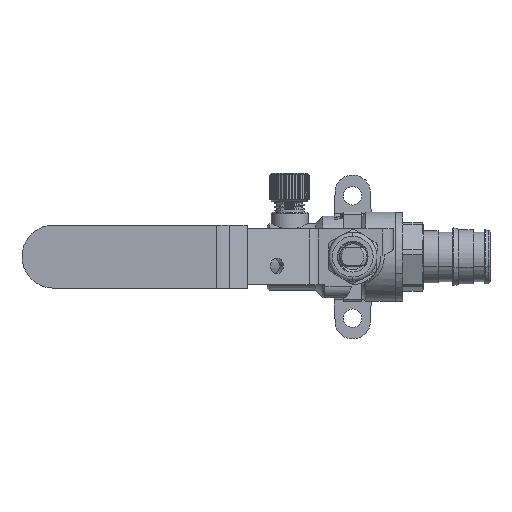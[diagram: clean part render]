
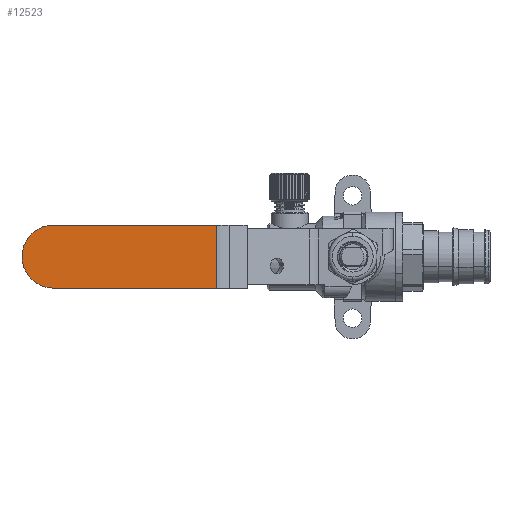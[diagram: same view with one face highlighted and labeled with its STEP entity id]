
A CAD part, top view. The second image highlights one B-rep face of the part: STEP entity #12523.
In plain terms, the highlighted planar face has unit normal (0, 0, 1).
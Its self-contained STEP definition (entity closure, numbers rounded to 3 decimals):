
#12007 = PLANE('',#12008);
#12008 = AXIS2_PLACEMENT_3D('',#12009,#12010,#12011);
#12009 = CARTESIAN_POINT('',(-36.668,-1.97,
    33.667));
#12010 = DIRECTION('',(0.,1.,0.));
#12011 = DIRECTION('',(0.,0.,-1.));
#12036 = CYLINDRICAL_SURFACE('',#12037,8.5);
#12037 = AXIS2_PLACEMENT_3D('',#12038,#12039,#12040);
#12038 = CARTESIAN_POINT('',(-80.604,6.53,
    37.067));
#12039 = DIRECTION('',(0.,0.,-1.));
#12040 = DIRECTION('',(1.,0.,0.));
#12065 = CYLINDRICAL_SURFACE('',#12066,8.5);
#12066 = AXIS2_PLACEMENT_3D('',#12067,#12068,#12069);
#12067 = CARTESIAN_POINT('',(-80.604,6.53,
    33.667));
#12068 = DIRECTION('',(0.,0.,1.));
#12069 = DIRECTION('',(-1.,0.,0.));
#12093 = PLANE('',#12094);
#12094 = AXIS2_PLACEMENT_3D('',#12095,#12096,#12097);
#12095 = CARTESIAN_POINT('',(-36.668,15.03,
    33.667));
#12096 = DIRECTION('',(0.,1.,0.));
#12097 = DIRECTION('',(0.,0.,-1.));
#12413 = CYLINDRICAL_SURFACE('',#12414,6.6);
#12414 = AXIS2_PLACEMENT_3D('',#12415,#12416,#12417);
#12415 = CARTESIAN_POINT('',(-36.668,-1.97,
    33.667));
#12416 = DIRECTION('',(0.,1.,0.));
#12417 = DIRECTION('',(0.,0.,-1.));
#12451 = VERTEX_POINT('',#12452);
#12452 = CARTESIAN_POINT('',(-36.668,15.03,
    40.267));
#12474 = EDGE_CURVE('',#12475,#12451,#12477,.T.);
#12475 = VERTEX_POINT('',#12476);
#12476 = CARTESIAN_POINT('',(-36.668,-1.97,
    40.267));
#12477 = SURFACE_CURVE('',#12478,(#12482,#12489),.PCURVE_S1.);
#12478 = LINE('',#12479,#12480);
#12479 = CARTESIAN_POINT('',(-36.668,-1.97,
    40.267));
#12480 = VECTOR('',#12481,1.);
#12481 = DIRECTION('',(0.,1.,0.));
#12482 = PCURVE('',#12413,#12483);
#12483 = DEFINITIONAL_REPRESENTATION('',(#12484),#12488);
#12484 = LINE('',#12485,#12486);
#12485 = CARTESIAN_POINT('',(3.142,0.));
#12486 = VECTOR('',#12487,1.);
#12487 = DIRECTION('',(0.,1.));
#12488 = ( GEOMETRIC_REPRESENTATION_CONTEXT(2) 
PARAMETRIC_REPRESENTATION_CONTEXT() REPRESENTATION_CONTEXT('2D SPACE',''
  ) );
#12489 = PCURVE('',#12490,#12495);
#12490 = PLANE('',#12491);
#12491 = AXIS2_PLACEMENT_3D('',#12492,#12493,#12494);
#12492 = CARTESIAN_POINT('',(-89.104,-1.97,
    40.267));
#12493 = DIRECTION('',(0.,0.,1.));
#12494 = DIRECTION('',(-1.,0.,0.));
#12495 = DEFINITIONAL_REPRESENTATION('',(#12496),#12500);
#12496 = LINE('',#12497,#12498);
#12497 = CARTESIAN_POINT('',(-52.436,-0.));
#12498 = VECTOR('',#12499,1.);
#12499 = DIRECTION('',(0.,-1.));
#12500 = ( GEOMETRIC_REPRESENTATION_CONTEXT(2) 
PARAMETRIC_REPRESENTATION_CONTEXT() REPRESENTATION_CONTEXT('2D SPACE',''
  ) );
#12523 = ADVANCED_FACE('',(#12524),#12490,.T.);
#12524 = FACE_BOUND('',#12525,.T.);
#12525 = EDGE_LOOP('',(#12526,#12552,#12576,#12597,#12598));
#12526 = ORIENTED_EDGE('',*,*,#12527,.T.);
#12527 = EDGE_CURVE('',#12528,#12530,#12532,.T.);
#12528 = VERTEX_POINT('',#12529);
#12529 = CARTESIAN_POINT('',(-80.604,15.03,
    40.267));
#12530 = VERTEX_POINT('',#12531);
#12531 = CARTESIAN_POINT('',(-89.104,6.53,
    40.267));
#12532 = SURFACE_CURVE('',#12533,(#12538,#12545),.PCURVE_S1.);
#12533 = CIRCLE('',#12534,8.5);
#12534 = AXIS2_PLACEMENT_3D('',#12535,#12536,#12537);
#12535 = CARTESIAN_POINT('',(-80.604,6.53,
    40.267));
#12536 = DIRECTION('',(0.,0.,1.));
#12537 = DIRECTION('',(-1.,0.,0.));
#12538 = PCURVE('',#12490,#12539);
#12539 = DEFINITIONAL_REPRESENTATION('',(#12540),#12544);
#12540 = CIRCLE('',#12541,8.5);
#12541 = AXIS2_PLACEMENT_2D('',#12542,#12543);
#12542 = CARTESIAN_POINT('',(-8.5,-8.5));
#12543 = DIRECTION('',(1.,0.));
#12544 = ( GEOMETRIC_REPRESENTATION_CONTEXT(2) 
PARAMETRIC_REPRESENTATION_CONTEXT() REPRESENTATION_CONTEXT('2D SPACE',''
  ) );
#12545 = PCURVE('',#12065,#12546);
#12546 = DEFINITIONAL_REPRESENTATION('',(#12547),#12551);
#12547 = LINE('',#12548,#12549);
#12548 = CARTESIAN_POINT('',(0.,6.6));
#12549 = VECTOR('',#12550,1.);
#12550 = DIRECTION('',(1.,0.));
#12551 = ( GEOMETRIC_REPRESENTATION_CONTEXT(2) 
PARAMETRIC_REPRESENTATION_CONTEXT() REPRESENTATION_CONTEXT('2D SPACE',''
  ) );
#12552 = ORIENTED_EDGE('',*,*,#12553,.T.);
#12553 = EDGE_CURVE('',#12530,#12554,#12556,.T.);
#12554 = VERTEX_POINT('',#12555);
#12555 = CARTESIAN_POINT('',(-80.604,-1.97,
    40.267));
#12556 = SURFACE_CURVE('',#12557,(#12562,#12569),.PCURVE_S1.);
#12557 = CIRCLE('',#12558,8.5);
#12558 = AXIS2_PLACEMENT_3D('',#12559,#12560,#12561);
#12559 = CARTESIAN_POINT('',(-80.604,6.53,
    40.267));
#12560 = DIRECTION('',(0.,0.,1.));
#12561 = DIRECTION('',(-1.,0.,0.));
#12562 = PCURVE('',#12490,#12563);
#12563 = DEFINITIONAL_REPRESENTATION('',(#12564),#12568);
#12564 = CIRCLE('',#12565,8.5);
#12565 = AXIS2_PLACEMENT_2D('',#12566,#12567);
#12566 = CARTESIAN_POINT('',(-8.5,-8.5));
#12567 = DIRECTION('',(1.,0.));
#12568 = ( GEOMETRIC_REPRESENTATION_CONTEXT(2) 
PARAMETRIC_REPRESENTATION_CONTEXT() REPRESENTATION_CONTEXT('2D SPACE',''
  ) );
#12569 = PCURVE('',#12036,#12570);
#12570 = DEFINITIONAL_REPRESENTATION('',(#12571),#12575);
#12571 = LINE('',#12572,#12573);
#12572 = CARTESIAN_POINT('',(3.142,-3.2));
#12573 = VECTOR('',#12574,1.);
#12574 = DIRECTION('',(-1.,0.));
#12575 = ( GEOMETRIC_REPRESENTATION_CONTEXT(2) 
PARAMETRIC_REPRESENTATION_CONTEXT() REPRESENTATION_CONTEXT('2D SPACE',''
  ) );
#12576 = ORIENTED_EDGE('',*,*,#12577,.T.);
#12577 = EDGE_CURVE('',#12554,#12475,#12578,.T.);
#12578 = SURFACE_CURVE('',#12579,(#12583,#12590),.PCURVE_S1.);
#12579 = LINE('',#12580,#12581);
#12580 = CARTESIAN_POINT('',(-89.104,-1.97,
    40.267));
#12581 = VECTOR('',#12582,1.);
#12582 = DIRECTION('',(1.,0.,0.));
#12583 = PCURVE('',#12490,#12584);
#12584 = DEFINITIONAL_REPRESENTATION('',(#12585),#12589);
#12585 = LINE('',#12586,#12587);
#12586 = CARTESIAN_POINT('',(0.,-0.));
#12587 = VECTOR('',#12588,1.);
#12588 = DIRECTION('',(-1.,-0.));
#12589 = ( GEOMETRIC_REPRESENTATION_CONTEXT(2) 
PARAMETRIC_REPRESENTATION_CONTEXT() REPRESENTATION_CONTEXT('2D SPACE',''
  ) );
#12590 = PCURVE('',#12007,#12591);
#12591 = DEFINITIONAL_REPRESENTATION('',(#12592),#12596);
#12592 = LINE('',#12593,#12594);
#12593 = CARTESIAN_POINT('',(-6.6,52.436));
#12594 = VECTOR('',#12595,1.);
#12595 = DIRECTION('',(0.,-1.));
#12596 = ( GEOMETRIC_REPRESENTATION_CONTEXT(2) 
PARAMETRIC_REPRESENTATION_CONTEXT() REPRESENTATION_CONTEXT('2D SPACE',''
  ) );
#12597 = ORIENTED_EDGE('',*,*,#12474,.T.);
#12598 = ORIENTED_EDGE('',*,*,#12599,.F.);
#12599 = EDGE_CURVE('',#12528,#12451,#12600,.T.);
#12600 = SURFACE_CURVE('',#12601,(#12605,#12612),.PCURVE_S1.);
#12601 = LINE('',#12602,#12603);
#12602 = CARTESIAN_POINT('',(-89.104,15.03,
    40.267));
#12603 = VECTOR('',#12604,1.);
#12604 = DIRECTION('',(1.,0.,0.));
#12605 = PCURVE('',#12490,#12606);
#12606 = DEFINITIONAL_REPRESENTATION('',(#12607),#12611);
#12607 = LINE('',#12608,#12609);
#12608 = CARTESIAN_POINT('',(0.,-17.));
#12609 = VECTOR('',#12610,1.);
#12610 = DIRECTION('',(-1.,-0.));
#12611 = ( GEOMETRIC_REPRESENTATION_CONTEXT(2) 
PARAMETRIC_REPRESENTATION_CONTEXT() REPRESENTATION_CONTEXT('2D SPACE',''
  ) );
#12612 = PCURVE('',#12093,#12613);
#12613 = DEFINITIONAL_REPRESENTATION('',(#12614),#12618);
#12614 = LINE('',#12615,#12616);
#12615 = CARTESIAN_POINT('',(-6.6,52.436));
#12616 = VECTOR('',#12617,1.);
#12617 = DIRECTION('',(0.,-1.));
#12618 = ( GEOMETRIC_REPRESENTATION_CONTEXT(2) 
PARAMETRIC_REPRESENTATION_CONTEXT() REPRESENTATION_CONTEXT('2D SPACE',''
  ) );
